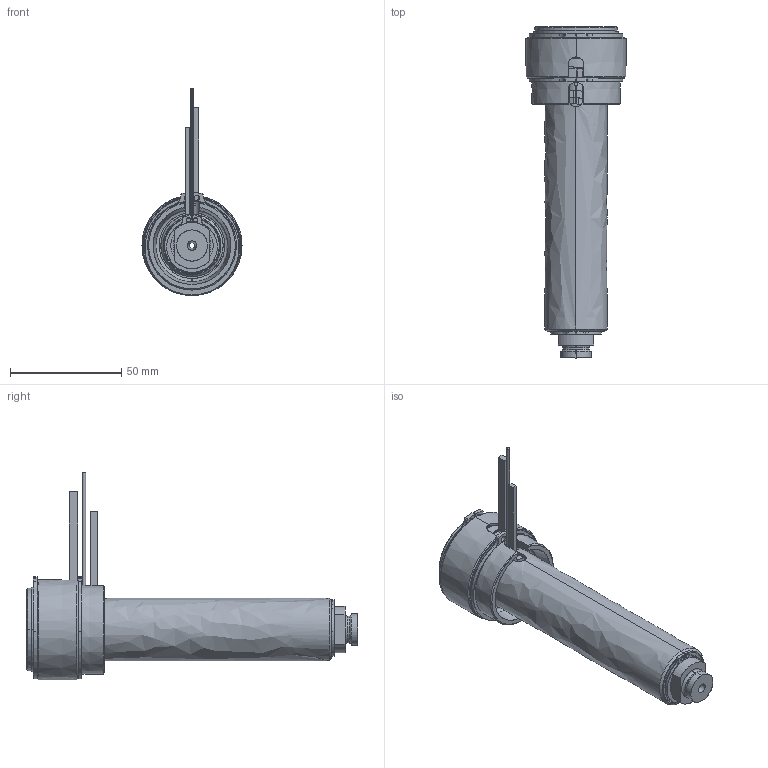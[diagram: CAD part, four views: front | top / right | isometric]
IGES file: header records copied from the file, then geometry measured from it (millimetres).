
Start section: SolidWorks IGES file using analytic representation for surfaces
Global section: file name: C:\Documents and Settings\ws-20\Desktop\TEM\UGBE4503-M-A-5 [Ød-2.5 P-0 ØC-09].IGS; native system: SolidWorks 2012; preprocessor: SolidWorks 2012; author: ws-20; date: 120412.153155; units: millimetre
Bounding box: 45 x 149.25 x 93.15 mm (x, y, z)
Surface area: 54424.4 mm2 (no closed solid volume)
Topology: 0 solids, 0 shells, 162 faces, 3063 edges, 3063 vertices
Faces by surface type: revolution 99, bspline 63
